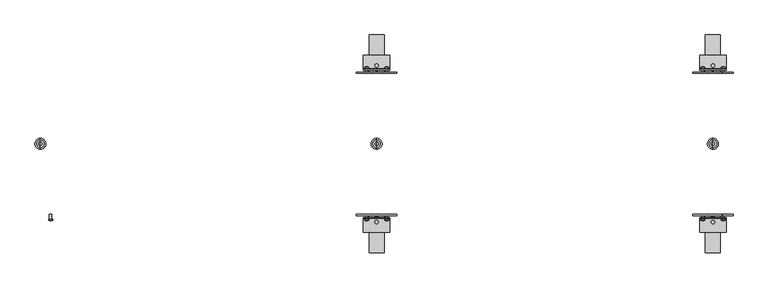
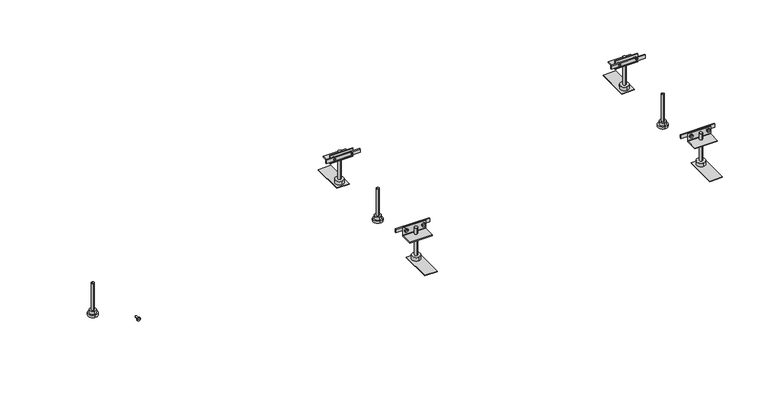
"""IFC4 building model written with IfcOpenShell, lengths in millimetres: proxy geometry."""

from ifc_helpers import new_model, si_unit, point, frame, frame_2d, origin, place, context, project, spatial, polyline, circle_curve, ellipse_curve, trimmed, segment, composite_curve, outline, extrude, source, transform, mapped, element, save
from ifc_brep_helpers import plane_surface, cylinder_surface, revolved_surface, advanced_brep


def electrical_fixtures_6beec135(model_context):
    return source(origin(), model_context, "Body", "SolidModel", [
        advanced_brep(
        [(1600.0, 13.0, -85.5), (1600.0, -13.0, -85.5), (1600.0, 0.0, -85.5), (1600.0, 13.0, -79.5), (1600.0, -13.0, -79.5), (1600.0, 9.0, -79.5), (1600.0, -9.0, -79.5), (1600.0, 9.0, -70.5), (1600.0, -9.0, -70.5), (1600.0, 3.954744, -70.5), (1600.0, -3.954744, -70.5), (1600.0, 3.954744, 9.5), (1600.0, -3.954744, 9.5), (1600.0, 0.0, 9.5)],
        [
            (0, 1, circle_curve(frame((1600.0, 0.0, -85.5), z_axis=(0.0, 0.0, -1.0), x_axis=(0.0, -1.0, 0.0)), 13.0)),
            (1, 2),
            (2, 0),
            (1, 0, circle_curve(frame((1600.0, 0.0, -85.5), z_axis=(0.0, 0.0, -1.0), x_axis=(0.0, -1.0, 0.0)), 13.0)),
            (3, 4, circle_curve(frame((1600.0, 0.0, -79.5), z_axis=(0.0, 0.0, -1.0), x_axis=(0.0, -1.0, 0.0)), 13.0)),
            (4, 1),
            (0, 3),
            (4, 3, circle_curve(frame((1600.0, 0.0, -79.5), z_axis=(0.0, 0.0, -1.0), x_axis=(0.0, -1.0, 0.0)), 13.0)),
            (5, 6, circle_curve(frame((1600.0, 0.0, -79.5), z_axis=(0.0, 0.0, -1.0), x_axis=(0.0, -1.0, 0.0)), 9.0)),
            (6, 4),
            (3, 5),
            (6, 5, circle_curve(frame((1600.0, 0.0, -79.5), z_axis=(0.0, 0.0, -1.0), x_axis=(0.0, -1.0, 0.0)), 9.0)),
            (7, 8, circle_curve(frame((1600.0, 0.0, -70.5), z_axis=(0.0, 0.0, -1.0), x_axis=(0.0, -1.0, 0.0)), 9.0)),
            (8, 6),
            (5, 7),
            (8, 7, circle_curve(frame((1600.0, 0.0, -70.5), z_axis=(0.0, 0.0, -1.0), x_axis=(0.0, -1.0, 0.0)), 9.0)),
            (9, 10, circle_curve(frame((1600.0, 0.0, -70.5), z_axis=(0.0, 0.0, -1.0), x_axis=(0.0, -1.0, 0.0)), 3.954744)),
            (10, 8),
            (7, 9),
            (10, 9, circle_curve(frame((1600.0, 0.0, -70.5), z_axis=(0.0, 0.0, -1.0), x_axis=(0.0, -1.0, 0.0)), 3.954744)),
            (11, 12, circle_curve(frame((1600.0, 0.0, 9.5), z_axis=(0.0, 0.0, -1.0), x_axis=(0.0, -1.0, 0.0)), 3.954744)),
            (12, 10),
            (9, 11),
            (12, 11, circle_curve(frame((1600.0, 0.0, 9.5), z_axis=(0.0, 0.0, -1.0), x_axis=(0.0, -1.0, 0.0)), 3.954744)),
            (13, 12),
            (11, 13),
        ],
        [
            plane_surface(frame((1600.0, 0.0, -85.5), z_axis=(0.0, 0.0, -1.0), x_axis=(0.0, -1.0, 0.0))),
            cylinder_surface(frame((1600.0, 0.0, 7.0), z_axis=(0.0, 0.0, 1.0), x_axis=(0.0, -1.0, 0.0)), 13.0),
            plane_surface(frame((1600.0, 0.0, -79.5), z_axis=(0.0, 0.0, 1.0), x_axis=(0.0, -1.0, 0.0))),
            cylinder_surface(frame((1600.0, 0.0, 7.0), z_axis=(0.0, 0.0, 1.0), x_axis=(0.0, -1.0, 0.0)), 9.0),
            plane_surface(frame((1600.0, 0.0, -70.5), z_axis=(0.0, 0.0, 1.0), x_axis=(0.0, -1.0, 0.0))),
            cylinder_surface(frame((1600.0, 0.0, 7.0), z_axis=(0.0, 0.0, 1.0), x_axis=(0.0, -1.0, 0.0)), 3.954744),
            plane_surface(frame((1600.0, 0.0, 9.5), z_axis=(0.0, 0.0, 1.0), x_axis=(0.0, -1.0, 0.0))),
        ],
        [
            (0, [[1, 2, 3]]),
            (0, [[4, -3, -2]]),
            (1, [[5, 6, -1, 7]]),
            (1, [[8, -7, -4, -6]]),
            (2, [[9, 10, -5, 11]]),
            (2, [[12, -11, -8, -10]]),
            (3, [[13, 14, -9, 15]]),
            (3, [[16, -15, -12, -14]]),
            (4, [[17, 18, -13, 19]]),
            (4, [[20, -19, -16, -18]]),
            (5, [[21, 22, -17, 23]]),
            (5, [[24, -23, -20, -22]]),
            (6, [[25, -21, 26]]),
            (6, [[-26, -24, -25]]),
        ],
    ),
        advanced_brep(
        [(1629.0575247, -181.6418922, 2.5), (1619.4769168, -181.6418922, 2.5), (1619.4769168, -179.7, 2.5), (1629.0575247, -179.7, 2.5), (1621.7042517, -179.7, 2.5), (1626.8301898, -179.7, 2.5), (1621.7042517, -167.7, 2.5), (1626.8301898, -167.7, 2.5), (1624.2672208, -167.7, 2.5), (1624.2672208, -183.3479209, 2.5)],
        [
            (0, 1, circle_curve(frame((1624.2672208, -181.6418922, 2.5), z_axis=(0.0, 1.0, 0.0), x_axis=(-1.0, 0.0, 0.0)), 4.790304)),
            (1, 2),
            (2, 3, circle_curve(frame((1624.2672208, -179.7, 2.5), z_axis=(0.0, -1.0, 0.0), x_axis=(-1.0, 0.0, 0.0)), 4.790304)),
            (3, 0),
            (1, 0, circle_curve(frame((1624.2672208, -181.6418922, 2.5), z_axis=(0.0, 1.0, 0.0), x_axis=(-1.0, 0.0, 0.0)), 4.790304)),
            (3, 2, circle_curve(frame((1624.2672208, -179.7, 2.5), z_axis=(0.0, -1.0, 0.0), x_axis=(-1.0, 0.0, 0.0)), 4.790304)),
            (2, 4),
            (4, 5, circle_curve(frame((1624.2672208, -179.7, 2.5), z_axis=(0.0, -1.0, 0.0), x_axis=(-1.0, 0.0, 0.0)), 2.562969)),
            (5, 3),
            (5, 4, circle_curve(frame((1624.2672208, -179.7, 2.5), z_axis=(0.0, -1.0, 0.0), x_axis=(-1.0, 0.0, 0.0)), 2.562969)),
            (4, 6),
            (6, 7, circle_curve(frame((1624.2672208, -167.7, 2.5), z_axis=(0.0, -1.0, 0.0), x_axis=(-1.0, 0.0, 0.0)), 2.562969)),
            (7, 5),
            (7, 6, circle_curve(frame((1624.2672208, -167.7, 2.5), z_axis=(0.0, -1.0, 0.0), x_axis=(-1.0, 0.0, 0.0)), 2.562969)),
            (6, 8),
            (8, 7),
            (9, 1, circle_curve(frame((1624.2353142, -175.8592246, 2.5), z_axis=(0.0, 0.0, -1.0), x_axis=(-1.0, 0.0, 0.0)), 7.4887643)),
            (0, 9, circle_curve(frame((1624.2991274, -175.8592246, 2.5), z_axis=(0.0, 0.0, -1.0), x_axis=(1.0, 0.0, 0.0)), 7.4887643)),
        ],
        [
            cylinder_surface(frame((1624.2672208, -179.2950786, 2.5), z_axis=(0.0, -1.0, 0.0), x_axis=(-1.0, 0.0, 0.0)), 4.790304),
            plane_surface(frame((1624.2672208, -179.7, 2.5), z_axis=(0.0, 1.0, 0.0), x_axis=(-1.0, 0.0, 0.0))),
            cylinder_surface(frame((1624.2672208, -179.2950786, 2.5), z_axis=(0.0, -1.0, 0.0), x_axis=(-1.0, 0.0, 0.0)), 2.562969),
            plane_surface(frame((1624.2672208, -167.7, 2.5), z_axis=(0.0, 1.0, 0.0), x_axis=(-1.0, 0.0, 0.0))),
            revolved_surface(trimmed(ellipse_curve(frame((1624.2353142, -175.8592246, 2.5), z_axis=(0.0, 0.0, 1.0), x_axis=(-1.0, 0.0, 0.0)), 7.4887643, 7.4887643), [point((1619.4769168, -181.6418922, 2.5))], [point((1624.2672208, -183.3479209, 2.5))], True, "CARTESIAN"), (1624.2672208, -179.2950786, 2.5), (0.0, -1.0, 0.0)),
        ],
        [
            (0, [[1, 2, 3, 4]]),
            (0, [[5, -4, 6, -2]]),
            (1, [[-3, 7, 8, 9]]),
            (1, [[-6, -9, 10, -7]]),
            (2, [[-8, 11, 12, 13]]),
            (2, [[-10, -13, 14, -11]]),
            (3, [[-12, 15, 16]]),
            (3, [[-14, -16, -15]]),
            (4, [[17, -1, 18]]),
            (4, [[-18, -5, -17]]),
        ],
    ),
        advanced_brep(
        [(1580.790304, -181.6418922, 2.5), (1571.209696, -181.6418922, 2.5), (1571.209696, -179.7, 2.5), (1580.790304, -179.7, 2.5), (1573.437031, -179.7, 2.5), (1578.562969, -179.7, 2.5), (1573.437031, -167.7, 2.5), (1578.562969, -167.7, 2.5), (1576.0, -167.7, 2.5), (1576.0, -183.3479209, 2.5)],
        [
            (0, 1, circle_curve(frame((1576.0, -181.6418922, 2.5), z_axis=(0.0, 1.0, 0.0), x_axis=(-1.0, 0.0, 0.0)), 4.790304)),
            (1, 2),
            (2, 3, circle_curve(frame((1576.0, -179.7, 2.5), z_axis=(0.0, -1.0, 0.0), x_axis=(-1.0, 0.0, 0.0)), 4.790304)),
            (3, 0),
            (1, 0, circle_curve(frame((1576.0, -181.6418922, 2.5), z_axis=(0.0, 1.0, 0.0), x_axis=(-1.0, 0.0, 0.0)), 4.790304)),
            (3, 2, circle_curve(frame((1576.0, -179.7, 2.5), z_axis=(0.0, -1.0, 0.0), x_axis=(-1.0, 0.0, 0.0)), 4.790304)),
            (2, 4),
            (4, 5, circle_curve(frame((1576.0, -179.7, 2.5), z_axis=(0.0, -1.0, 0.0), x_axis=(-1.0, 0.0, 0.0)), 2.562969)),
            (5, 3),
            (5, 4, circle_curve(frame((1576.0, -179.7, 2.5), z_axis=(0.0, -1.0, 0.0), x_axis=(-1.0, 0.0, 0.0)), 2.562969)),
            (4, 6),
            (6, 7, circle_curve(frame((1576.0, -167.7, 2.5), z_axis=(0.0, -1.0, 0.0), x_axis=(-1.0, 0.0, 0.0)), 2.562969)),
            (7, 5),
            (7, 6, circle_curve(frame((1576.0, -167.7, 2.5), z_axis=(0.0, -1.0, 0.0), x_axis=(-1.0, 0.0, 0.0)), 2.562969)),
            (6, 8),
            (8, 7),
            (9, 1, circle_curve(frame((1575.9680934, -175.8592246, 2.5), z_axis=(0.0, 0.0, -1.0), x_axis=(-1.0, 0.0, 0.0)), 7.4887643)),
            (0, 9, circle_curve(frame((1576.0319066, -175.8592246, 2.5), z_axis=(0.0, 0.0, -1.0), x_axis=(1.0, 0.0, 0.0)), 7.4887643)),
        ],
        [
            cylinder_surface(frame((1576.0, -179.2950786, 2.5), z_axis=(0.0, -1.0, 0.0), x_axis=(-1.0, 0.0, 0.0)), 4.790304),
            plane_surface(frame((1576.0, -179.7, 2.5), z_axis=(0.0, 1.0, 0.0), x_axis=(-1.0, 0.0, 0.0))),
            cylinder_surface(frame((1576.0, -179.2950786, 2.5), z_axis=(0.0, -1.0, 0.0), x_axis=(-1.0, 0.0, 0.0)), 2.562969),
            plane_surface(frame((1576.0, -167.7, 2.5), z_axis=(0.0, 1.0, 0.0), x_axis=(-1.0, 0.0, 0.0))),
            revolved_surface(trimmed(ellipse_curve(frame((1575.9680934, -175.8592246, 2.5), z_axis=(0.0, 0.0, 1.0), x_axis=(-1.0, 0.0, 0.0)), 7.4887643, 7.4887643), [point((1571.209696, -181.6418922, 2.5))], [point((1576.0, -183.3479209, 2.5))], True, "CARTESIAN"), (1576.0, -179.2950786, 2.5), (0.0, -1.0, 0.0)),
        ],
        [
            (0, [[1, 2, 3, 4]]),
            (0, [[5, -4, 6, -2]]),
            (1, [[-3, 7, 8, 9]]),
            (1, [[-6, -9, 10, -7]]),
            (2, [[-8, 11, 12, 13]]),
            (2, [[-10, -13, 14, -11]]),
            (3, [[-12, 15, 16]]),
            (3, [[-14, -16, -15]]),
            (4, [[17, -1, 18]]),
            (4, [[-18, -5, -17]]),
        ],
    ),
        advanced_brep(
        [(1629.0575247, 179.7, 2.5), (1619.4769168, 179.7, 2.5), (1619.4769168, 181.6418922, 2.5), (1629.0575247, 181.6418922, 2.5), (1626.8301898, 179.7, 2.5), (1621.7042517, 179.7, 2.5), (1626.8301898, 167.7, 2.5), (1621.7042517, 167.7, 2.5), (1624.2672208, 167.7, 2.5), (1624.2672208, 183.3479209, 2.5)],
        [
            (0, 1, circle_curve(frame((1624.2672208, 179.7, 2.5), z_axis=(0.0, 1.0, 0.0), x_axis=(-1.0, 0.0, 0.0)), 4.790304)),
            (1, 2),
            (2, 3, circle_curve(frame((1624.2672208, 181.6418922, 2.5), z_axis=(0.0, -1.0, 0.0), x_axis=(-1.0, 0.0, 0.0)), 4.790304)),
            (3, 0),
            (1, 0, circle_curve(frame((1624.2672208, 179.7, 2.5), z_axis=(0.0, 1.0, 0.0), x_axis=(-1.0, 0.0, 0.0)), 4.790304)),
            (3, 2, circle_curve(frame((1624.2672208, 181.6418922, 2.5), z_axis=(0.0, -1.0, 0.0), x_axis=(-1.0, 0.0, 0.0)), 4.790304)),
            (4, 5, circle_curve(frame((1624.2672208, 179.7, 2.5), z_axis=(0.0, 1.0, 0.0), x_axis=(-1.0, 0.0, 0.0)), 2.562969)),
            (5, 1),
            (0, 4),
            (5, 4, circle_curve(frame((1624.2672208, 179.7, 2.5), z_axis=(0.0, 1.0, 0.0), x_axis=(-1.0, 0.0, 0.0)), 2.562969)),
            (6, 7, circle_curve(frame((1624.2672208, 167.7, 2.5), z_axis=(0.0, 1.0, 0.0), x_axis=(-1.0, 0.0, 0.0)), 2.562969)),
            (7, 5),
            (4, 6),
            (7, 6, circle_curve(frame((1624.2672208, 167.7, 2.5), z_axis=(0.0, 1.0, 0.0), x_axis=(-1.0, 0.0, 0.0)), 2.562969)),
            (8, 7),
            (6, 8),
            (2, 9, circle_curve(frame((1624.2353142, 175.8592246, 2.5), z_axis=(0.0, 0.0, -1.0), x_axis=(-1.0, 0.0, 0.0)), 7.4887643)),
            (9, 3, circle_curve(frame((1624.2991274, 175.8592246, 2.5), z_axis=(0.0, 0.0, -1.0), x_axis=(1.0, 0.0, 0.0)), 7.4887643)),
        ],
        [
            cylinder_surface(frame((1624.2672208, 179.2950786, 2.5), z_axis=(0.0, -1.0, 0.0), x_axis=(-1.0, 0.0, 0.0)), 4.790304),
            plane_surface(frame((1624.2672208, 179.7, 2.5), z_axis=(0.0, -1.0, 0.0), x_axis=(-1.0, 0.0, 0.0))),
            cylinder_surface(frame((1624.2672208, 179.2950786, 2.5), z_axis=(0.0, -1.0, 0.0), x_axis=(-1.0, 0.0, 0.0)), 2.562969),
            plane_surface(frame((1624.2672208, 167.7, 2.5), z_axis=(0.0, -1.0, 0.0), x_axis=(-1.0, 0.0, 0.0))),
            revolved_surface(trimmed(ellipse_curve(frame((1624.2353142, 175.8592246, 2.5), z_axis=(0.0, 0.0, 1.0), x_axis=(-1.0, 0.0, 0.0)), 7.4887643, 7.4887643), [point((1624.2672208, 183.3479209, 2.5))], [point((1619.4769168, 181.6418922, 2.5))], True, "CARTESIAN"), (1624.2672208, 179.2950786, 2.5), (0.0, -1.0, 0.0)),
        ],
        [
            (0, [[1, 2, 3, 4]]),
            (0, [[5, -4, 6, -2]]),
            (1, [[7, 8, -1, 9]]),
            (1, [[10, -9, -5, -8]]),
            (2, [[11, 12, -7, 13]]),
            (2, [[14, -13, -10, -12]]),
            (3, [[15, -11, 16]]),
            (3, [[-16, -14, -15]]),
            (4, [[-3, 17, 18]]),
            (4, [[-6, -18, -17]]),
        ],
    ),
        advanced_brep(
        [(1580.790304, 179.7, 2.5), (1571.209696, 179.7, 2.5), (1571.209696, 181.6418922, 2.5), (1580.790304, 181.6418922, 2.5), (1578.562969, 179.7, 2.5), (1573.437031, 179.7, 2.5), (1578.562969, 167.7, 2.5), (1573.437031, 167.7, 2.5), (1576.0, 167.7, 2.5), (1576.0, 183.3479209, 2.5)],
        [
            (0, 1, circle_curve(frame((1576.0, 179.7, 2.5), z_axis=(0.0, 1.0, 0.0), x_axis=(-1.0, 0.0, 0.0)), 4.790304)),
            (1, 2),
            (2, 3, circle_curve(frame((1576.0, 181.6418922, 2.5), z_axis=(0.0, -1.0, 0.0), x_axis=(-1.0, 0.0, 0.0)), 4.790304)),
            (3, 0),
            (1, 0, circle_curve(frame((1576.0, 179.7, 2.5), z_axis=(0.0, 1.0, 0.0), x_axis=(-1.0, 0.0, 0.0)), 4.790304)),
            (3, 2, circle_curve(frame((1576.0, 181.6418922, 2.5), z_axis=(0.0, -1.0, 0.0), x_axis=(-1.0, 0.0, 0.0)), 4.790304)),
            (4, 5, circle_curve(frame((1576.0, 179.7, 2.5), z_axis=(0.0, 1.0, 0.0), x_axis=(-1.0, 0.0, 0.0)), 2.562969)),
            (5, 1),
            (0, 4),
            (5, 4, circle_curve(frame((1576.0, 179.7, 2.5), z_axis=(0.0, 1.0, 0.0), x_axis=(-1.0, 0.0, 0.0)), 2.562969)),
            (6, 7, circle_curve(frame((1576.0, 167.7, 2.5), z_axis=(0.0, 1.0, 0.0), x_axis=(-1.0, 0.0, 0.0)), 2.562969)),
            (7, 5),
            (4, 6),
            (7, 6, circle_curve(frame((1576.0, 167.7, 2.5), z_axis=(0.0, 1.0, 0.0), x_axis=(-1.0, 0.0, 0.0)), 2.562969)),
            (8, 7),
            (6, 8),
            (2, 9, circle_curve(frame((1575.9680934, 175.8592246, 2.5), z_axis=(0.0, 0.0, -1.0), x_axis=(-1.0, 0.0, 0.0)), 7.4887643)),
            (9, 3, circle_curve(frame((1576.0319066, 175.8592246, 2.5), z_axis=(0.0, 0.0, -1.0), x_axis=(1.0, 0.0, 0.0)), 7.4887643)),
        ],
        [
            cylinder_surface(frame((1576.0, 179.2950786, 2.5), z_axis=(0.0, -1.0, 0.0), x_axis=(-1.0, 0.0, 0.0)), 4.790304),
            plane_surface(frame((1576.0, 179.7, 2.5), z_axis=(0.0, -1.0, 0.0), x_axis=(-1.0, 0.0, 0.0))),
            cylinder_surface(frame((1576.0, 179.2950786, 2.5), z_axis=(0.0, -1.0, 0.0), x_axis=(-1.0, 0.0, 0.0)), 2.562969),
            plane_surface(frame((1576.0, 167.7, 2.5), z_axis=(0.0, -1.0, 0.0), x_axis=(-1.0, 0.0, 0.0))),
            revolved_surface(trimmed(ellipse_curve(frame((1575.9680934, 175.8592246, 2.5), z_axis=(0.0, 0.0, 1.0), x_axis=(-1.0, 0.0, 0.0)), 7.4887643, 7.4887643), [point((1576.0, 183.3479209, 2.5))], [point((1571.209696, 181.6418922, 2.5))], True, "CARTESIAN"), (1576.0, 179.2950786, 2.5), (0.0, -1.0, 0.0)),
        ],
        [
            (0, [[1, 2, 3, 4]]),
            (0, [[5, -4, 6, -2]]),
            (1, [[7, 8, -1, 9]]),
            (1, [[10, -9, -5, -8]]),
            (2, [[11, 12, -7, 13]]),
            (2, [[14, -13, -10, -12]]),
            (3, [[15, -11, 16]]),
            (3, [[-16, -14, -15]]),
            (4, [[-3, 17, 18]]),
            (4, [[-6, -18, -17]]),
        ],
    ),
        extrude(outline(polyline([(1552.0, 167.7), (1552.0, 170.7), (1648.0, 170.7), (1648.0, 167.7), (1552.0, 167.7)])), frame((0.0, 0.0, -2.5), z_axis=(0.0, 0.0, 1.0), x_axis=(1.0, 0.0, 0.0)), (0.0, 0.0, 1.0), 10.0),
        extrude(outline(polyline([(1552.0, -170.7), (1552.0, -167.7), (1648.0, -167.7), (1648.0, -170.7), (1552.0, -170.7)])), frame((0.0, 0.0, -2.5), z_axis=(0.0, 0.0, 1.0), x_axis=(1.0, 0.0, 0.0)), (0.0, 0.0, 1.0), 10.0),
        extrude(outline(composite_curve([segment(polyline([(175.6, 10.9), (177.6, 10.9), (177.6, -11.1088822)]), True, "CONTINUOUS"), segment(trimmed(circle_curve(frame_2d((178.5911178, -11.1088822)), 0.9911178), [point((177.6, -11.1088822))], [point((178.5911178, -12.1))], True, "CARTESIAN"), True, "CONTINUOUS"), segment(polyline([(178.5911178, -12.1), (210.6, -12.1), (210.6, -14.1), (178.6002521, -14.1)]), True, "CONTINUOUS"), segment(trimmed(circle_curve(frame_2d((178.6002521, -11.0997479)), 3.0002521), [point((178.6002521, -14.1))], [point((175.6, -11.0997479))], False, "CARTESIAN"), True, "CONTINUOUS"), segment(polyline([(175.6, -11.0997479), (175.6, 10.9)]), True, "CONTINUOUS")], self_intersect=False)), frame((1568.3, 0.0, 0.0), z_axis=(1.0, 0.0, 0.0), x_axis=(0.0, 1.0, 0.0)), (0.0, 0.0, 1.0), 63.4),
        extrude(outline(composite_curve([segment(polyline([(-175.6, 10.9), (-175.6, -11.0997479)]), True, "CONTINUOUS"), segment(trimmed(circle_curve(frame_2d((-178.6002521, -11.0997479)), 3.0002521), [point((-175.6, -11.0997479))], [point((-178.6002521, -14.1))], False, "CARTESIAN"), True, "CONTINUOUS"), segment(polyline([(-178.6002521, -14.1), (-210.6, -14.1), (-210.6, -12.1), (-178.5911178, -12.1)]), True, "CONTINUOUS"), segment(trimmed(circle_curve(frame_2d((-178.5911178, -11.1088822)), 0.9911178), [point((-178.5911178, -12.1))], [point((-177.6, -11.1088822))], True, "CARTESIAN"), True, "CONTINUOUS"), segment(polyline([(-177.6, -11.1088822), (-177.6, 10.9), (-175.6, 10.9)]), True, "CONTINUOUS")], self_intersect=False)), frame((1568.3, 0.0, 0.0), z_axis=(1.0, 0.0, 0.0), x_axis=(0.0, 1.0, 0.0)), (0.0, 0.0, 1.0), 63.4),
        extrude(outline(composite_curve([segment(trimmed(circle_curve(frame_2d((1600.0, 186.1712378)), 3.9923162), [point((1600.0, 190.163554))], [point((1600.0, 182.1789216))], False, "CARTESIAN"), True, "CONTINUOUS"), segment(trimmed(circle_curve(frame_2d((1600.0, 186.1712378)), 3.9923162), [point((1600.0, 182.1789216))], [point((1600.0, 190.163554))], False, "CARTESIAN"), True, "CONTINUOUS")], self_intersect=False)), frame((0.0, 0.0, -74.8), z_axis=(0.0, 0.0, 1.0), x_axis=(1.0, 0.0, 0.0)), (0.0, 0.0, 1.0), 81.8),
        extrude(outline(composite_curve([segment(trimmed(circle_curve(frame_2d((1600.0, -186.0787011)), 3.991847), [point((1600.0, -182.0868541))], [point((1600.0, -190.0705482))], False, "CARTESIAN"), True, "CONTINUOUS"), segment(trimmed(circle_curve(frame_2d((1600.0, -186.0787011)), 3.991847), [point((1600.0, -190.0705482))], [point((1600.0, -182.0868541))], False, "CARTESIAN"), True, "CONTINUOUS")], self_intersect=False)), frame((0.0, 0.0, -74.8), z_axis=(0.0, 0.0, 1.0), x_axis=(1.0, 0.0, 0.0)), (0.0, 0.0, 1.0), 81.8),
        extrude(outline(composite_curve([segment(trimmed(circle_curve(frame_2d((1600.0, 186.1652527)), 12.0), [point((1600.0, 198.1652527))], [point((1600.0, 174.1652527))], False, "CARTESIAN"), True, "CONTINUOUS"), segment(trimmed(circle_curve(frame_2d((1600.0, 186.1652527)), 12.0), [point((1600.0, 174.1652527))], [point((1600.0, 198.1652527))], False, "CARTESIAN"), True, "CONTINUOUS")], self_intersect=False)), frame((0.0, 0.0, -85.5), z_axis=(0.0, 0.0, 1.0), x_axis=(1.0, 0.0, 0.0)), (0.0, 0.0, 1.0), 10.7),
        extrude(outline(composite_curve([segment(trimmed(circle_curve(frame_2d((1600.0, -186.112037)), 12.0), [point((1600.0, -174.112037))], [point((1600.0, -198.112037))], False, "CARTESIAN"), True, "CONTINUOUS"), segment(trimmed(circle_curve(frame_2d((1600.0, -186.112037)), 12.0), [point((1600.0, -198.112037))], [point((1600.0, -174.112037))], False, "CARTESIAN"), True, "CONTINUOUS")], self_intersect=False)), frame((0.0, 0.0, -85.5), z_axis=(0.0, 0.0, 1.0), x_axis=(1.0, 0.0, 0.0)), (0.0, 0.0, 1.0), 10.7),
        extrude(outline(polyline([(1618.0, 169.1), (1582.0, 169.1), (1582.0, 259.1), (1618.0, 259.1), (1618.0, 169.1)])), frame((0.0, 0.0, -87.0), z_axis=(0.0, 0.0, 1.0), x_axis=(1.0, 0.0, 0.0)), (0.0, 0.0, 1.0), 1.5),
        extrude(outline(polyline([(1618.0, -259.1), (1582.0, -259.1), (1582.0, -169.1), (1618.0, -169.1), (1618.0, -259.1)])), frame((0.0, 0.0, -87.0), z_axis=(0.0, 0.0, 1.0), x_axis=(1.0, 0.0, 0.0)), (0.0, 0.0, 1.0), 1.5),
        advanced_brep(
        [(800.0, 13.0, -85.5), (800.0, -13.0, -85.5), (800.0, 0.0, -85.5), (800.0, 13.0, -79.5), (800.0, -13.0, -79.5), (800.0, 9.0, -79.5), (800.0, -9.0, -79.5), (800.0, 9.0, -70.5), (800.0, -9.0, -70.5), (800.0, 3.954744, -70.5), (800.0, -3.954744, -70.5), (800.0, 3.954744, 9.5), (800.0, -3.954744, 9.5), (800.0, 0.0, 9.5)],
        [
            (0, 1, circle_curve(frame((800.0, 0.0, -85.5), z_axis=(0.0, 0.0, -1.0), x_axis=(0.0, -1.0, 0.0)), 13.0)),
            (1, 2),
            (2, 0),
            (1, 0, circle_curve(frame((800.0, 0.0, -85.5), z_axis=(0.0, 0.0, -1.0), x_axis=(0.0, -1.0, 0.0)), 13.0)),
            (3, 4, circle_curve(frame((800.0, 0.0, -79.5), z_axis=(0.0, 0.0, -1.0), x_axis=(0.0, -1.0, 0.0)), 13.0)),
            (4, 1),
            (0, 3),
            (4, 3, circle_curve(frame((800.0, 0.0, -79.5), z_axis=(0.0, 0.0, -1.0), x_axis=(0.0, -1.0, 0.0)), 13.0)),
            (5, 6, circle_curve(frame((800.0, 0.0, -79.5), z_axis=(0.0, 0.0, -1.0), x_axis=(0.0, -1.0, 0.0)), 9.0)),
            (6, 4),
            (3, 5),
            (6, 5, circle_curve(frame((800.0, 0.0, -79.5), z_axis=(0.0, 0.0, -1.0), x_axis=(0.0, -1.0, 0.0)), 9.0)),
            (7, 8, circle_curve(frame((800.0, 0.0, -70.5), z_axis=(0.0, 0.0, -1.0), x_axis=(0.0, -1.0, 0.0)), 9.0)),
            (8, 6),
            (5, 7),
            (8, 7, circle_curve(frame((800.0, 0.0, -70.5), z_axis=(0.0, 0.0, -1.0), x_axis=(0.0, -1.0, 0.0)), 9.0)),
            (9, 10, circle_curve(frame((800.0, 0.0, -70.5), z_axis=(0.0, 0.0, -1.0), x_axis=(0.0, -1.0, 0.0)), 3.954744)),
            (10, 8),
            (7, 9),
            (10, 9, circle_curve(frame((800.0, 0.0, -70.5), z_axis=(0.0, 0.0, -1.0), x_axis=(0.0, -1.0, 0.0)), 3.954744)),
            (11, 12, circle_curve(frame((800.0, 0.0, 9.5), z_axis=(0.0, 0.0, -1.0), x_axis=(0.0, -1.0, 0.0)), 3.954744)),
            (12, 10),
            (9, 11),
            (12, 11, circle_curve(frame((800.0, 0.0, 9.5), z_axis=(0.0, 0.0, -1.0), x_axis=(0.0, -1.0, 0.0)), 3.954744)),
            (13, 12),
            (11, 13),
        ],
        [
            plane_surface(frame((800.0, 0.0, -85.5), z_axis=(0.0, 0.0, -1.0), x_axis=(0.0, -1.0, 0.0))),
            cylinder_surface(frame((800.0, 0.0, 7.0), z_axis=(0.0, 0.0, 1.0), x_axis=(0.0, -1.0, 0.0)), 13.0),
            plane_surface(frame((800.0, 0.0, -79.5), z_axis=(0.0, 0.0, 1.0), x_axis=(0.0, -1.0, 0.0))),
            cylinder_surface(frame((800.0, 0.0, 7.0), z_axis=(0.0, 0.0, 1.0), x_axis=(0.0, -1.0, 0.0)), 9.0),
            plane_surface(frame((800.0, 0.0, -70.5), z_axis=(0.0, 0.0, 1.0), x_axis=(0.0, -1.0, 0.0))),
            cylinder_surface(frame((800.0, 0.0, 7.0), z_axis=(0.0, 0.0, 1.0), x_axis=(0.0, -1.0, 0.0)), 3.954744),
            plane_surface(frame((800.0, 0.0, 9.5), z_axis=(0.0, 0.0, 1.0), x_axis=(0.0, -1.0, 0.0))),
        ],
        [
            (0, [[1, 2, 3]]),
            (0, [[4, -3, -2]]),
            (1, [[5, 6, -1, 7]]),
            (1, [[8, -7, -4, -6]]),
            (2, [[9, 10, -5, 11]]),
            (2, [[12, -11, -8, -10]]),
            (3, [[13, 14, -9, 15]]),
            (3, [[16, -15, -12, -14]]),
            (4, [[17, 18, -13, 19]]),
            (4, [[20, -19, -16, -18]]),
            (5, [[21, 22, -17, 23]]),
            (5, [[24, -23, -20, -22]]),
            (6, [[25, -21, 26]]),
            (6, [[-26, -24, -25]]),
        ],
    ),
        advanced_brep(
        [(829.0575247, -181.6418922, 2.5), (819.4769168, -181.6418922, 2.5), (819.4769168, -179.7, 2.5), (829.0575247, -179.7, 2.5), (821.7042517, -179.7, 2.5), (826.8301898, -179.7, 2.5), (821.7042517, -167.7, 2.5), (826.8301898, -167.7, 2.5), (824.2672208, -167.7, 2.5), (824.2672208, -183.3479209, 2.5)],
        [
            (0, 1, circle_curve(frame((824.2672208, -181.6418922, 2.5), z_axis=(0.0, 1.0, 0.0), x_axis=(-1.0, 0.0, 0.0)), 4.790304)),
            (1, 2),
            (2, 3, circle_curve(frame((824.2672208, -179.7, 2.5), z_axis=(0.0, -1.0, 0.0), x_axis=(-1.0, 0.0, 0.0)), 4.790304)),
            (3, 0),
            (1, 0, circle_curve(frame((824.2672208, -181.6418922, 2.5), z_axis=(0.0, 1.0, 0.0), x_axis=(-1.0, 0.0, 0.0)), 4.790304)),
            (3, 2, circle_curve(frame((824.2672208, -179.7, 2.5), z_axis=(0.0, -1.0, 0.0), x_axis=(-1.0, 0.0, 0.0)), 4.790304)),
            (2, 4),
            (4, 5, circle_curve(frame((824.2672208, -179.7, 2.5), z_axis=(0.0, -1.0, 0.0), x_axis=(-1.0, 0.0, 0.0)), 2.562969)),
            (5, 3),
            (5, 4, circle_curve(frame((824.2672208, -179.7, 2.5), z_axis=(0.0, -1.0, 0.0), x_axis=(-1.0, 0.0, 0.0)), 2.562969)),
            (4, 6),
            (6, 7, circle_curve(frame((824.2672208, -167.7, 2.5), z_axis=(0.0, -1.0, 0.0), x_axis=(-1.0, 0.0, 0.0)), 2.562969)),
            (7, 5),
            (7, 6, circle_curve(frame((824.2672208, -167.7, 2.5), z_axis=(0.0, -1.0, 0.0), x_axis=(-1.0, 0.0, 0.0)), 2.562969)),
            (6, 8),
            (8, 7),
            (9, 1, circle_curve(frame((824.2353142, -175.8592246, 2.5), z_axis=(0.0, 0.0, -1.0), x_axis=(-1.0, 0.0, 0.0)), 7.4887643)),
            (0, 9, circle_curve(frame((824.2991274, -175.8592246, 2.5), z_axis=(0.0, 0.0, -1.0), x_axis=(1.0, 0.0, 0.0)), 7.4887643)),
        ],
        [
            cylinder_surface(frame((824.2672208, -179.2950786, 2.5), z_axis=(0.0, -1.0, 0.0), x_axis=(-1.0, 0.0, 0.0)), 4.790304),
            plane_surface(frame((824.2672208, -179.7, 2.5), z_axis=(0.0, 1.0, 0.0), x_axis=(-1.0, 0.0, 0.0))),
            cylinder_surface(frame((824.2672208, -179.2950786, 2.5), z_axis=(0.0, -1.0, 0.0), x_axis=(-1.0, 0.0, 0.0)), 2.562969),
            plane_surface(frame((824.2672208, -167.7, 2.5), z_axis=(0.0, 1.0, 0.0), x_axis=(-1.0, 0.0, 0.0))),
            revolved_surface(trimmed(ellipse_curve(frame((824.2353142, -175.8592246, 2.5), z_axis=(0.0, 0.0, 1.0), x_axis=(-1.0, 0.0, 0.0)), 7.4887643, 7.4887643), [point((819.4769168, -181.6418922, 2.5))], [point((824.2672208, -183.3479209, 2.5))], True, "CARTESIAN"), (824.2672208, -179.2950786, 2.5), (0.0, -1.0, 0.0)),
        ],
        [
            (0, [[1, 2, 3, 4]]),
            (0, [[5, -4, 6, -2]]),
            (1, [[-3, 7, 8, 9]]),
            (1, [[-6, -9, 10, -7]]),
            (2, [[-8, 11, 12, 13]]),
            (2, [[-10, -13, 14, -11]]),
            (3, [[-12, 15, 16]]),
            (3, [[-14, -16, -15]]),
            (4, [[17, -1, 18]]),
            (4, [[-18, -5, -17]]),
        ],
    ),
        advanced_brep(
        [(780.790304, -181.6418922, 2.5), (771.209696, -181.6418922, 2.5), (771.209696, -179.7, 2.5), (780.790304, -179.7, 2.5), (773.437031, -179.7, 2.5), (778.562969, -179.7, 2.5), (773.437031, -167.7, 2.5), (778.562969, -167.7, 2.5), (776.0, -167.7, 2.5), (776.0, -183.3479209, 2.5)],
        [
            (0, 1, circle_curve(frame((776.0, -181.6418922, 2.5), z_axis=(0.0, 1.0, 0.0), x_axis=(-1.0, 0.0, 0.0)), 4.790304)),
            (1, 2),
            (2, 3, circle_curve(frame((776.0, -179.7, 2.5), z_axis=(0.0, -1.0, 0.0), x_axis=(-1.0, 0.0, 0.0)), 4.790304)),
            (3, 0),
            (1, 0, circle_curve(frame((776.0, -181.6418922, 2.5), z_axis=(0.0, 1.0, 0.0), x_axis=(-1.0, 0.0, 0.0)), 4.790304)),
            (3, 2, circle_curve(frame((776.0, -179.7, 2.5), z_axis=(0.0, -1.0, 0.0), x_axis=(-1.0, 0.0, 0.0)), 4.790304)),
            (2, 4),
            (4, 5, circle_curve(frame((776.0, -179.7, 2.5), z_axis=(0.0, -1.0, 0.0), x_axis=(-1.0, 0.0, 0.0)), 2.562969)),
            (5, 3),
            (5, 4, circle_curve(frame((776.0, -179.7, 2.5), z_axis=(0.0, -1.0, 0.0), x_axis=(-1.0, 0.0, 0.0)), 2.562969)),
            (4, 6),
            (6, 7, circle_curve(frame((776.0, -167.7, 2.5), z_axis=(0.0, -1.0, 0.0), x_axis=(-1.0, 0.0, 0.0)), 2.562969)),
            (7, 5),
            (7, 6, circle_curve(frame((776.0, -167.7, 2.5), z_axis=(0.0, -1.0, 0.0), x_axis=(-1.0, 0.0, 0.0)), 2.562969)),
            (6, 8),
            (8, 7),
            (9, 1, circle_curve(frame((775.9680934, -175.8592246, 2.5), z_axis=(0.0, 0.0, -1.0), x_axis=(-1.0, 0.0, 0.0)), 7.4887643)),
            (0, 9, circle_curve(frame((776.0319066, -175.8592246, 2.5), z_axis=(0.0, 0.0, -1.0), x_axis=(1.0, 0.0, 0.0)), 7.4887643)),
        ],
        [
            cylinder_surface(frame((776.0, -179.2950786, 2.5), z_axis=(0.0, -1.0, 0.0), x_axis=(-1.0, 0.0, 0.0)), 4.790304),
            plane_surface(frame((776.0, -179.7, 2.5), z_axis=(0.0, 1.0, 0.0), x_axis=(-1.0, 0.0, 0.0))),
            cylinder_surface(frame((776.0, -179.2950786, 2.5), z_axis=(0.0, -1.0, 0.0), x_axis=(-1.0, 0.0, 0.0)), 2.562969),
            plane_surface(frame((776.0, -167.7, 2.5), z_axis=(0.0, 1.0, 0.0), x_axis=(-1.0, 0.0, 0.0))),
            revolved_surface(trimmed(ellipse_curve(frame((775.9680934, -175.8592246, 2.5), z_axis=(0.0, 0.0, 1.0), x_axis=(-1.0, 0.0, 0.0)), 7.4887643, 7.4887643), [point((771.209696, -181.6418922, 2.5))], [point((776.0, -183.3479209, 2.5))], True, "CARTESIAN"), (776.0, -179.2950786, 2.5), (0.0, -1.0, 0.0)),
        ],
        [
            (0, [[1, 2, 3, 4]]),
            (0, [[5, -4, 6, -2]]),
            (1, [[-3, 7, 8, 9]]),
            (1, [[-6, -9, 10, -7]]),
            (2, [[-8, 11, 12, 13]]),
            (2, [[-10, -13, 14, -11]]),
            (3, [[-12, 15, 16]]),
            (3, [[-14, -16, -15]]),
            (4, [[17, -1, 18]]),
            (4, [[-18, -5, -17]]),
        ],
    ),
        advanced_brep(
        [(829.0575247, 179.7, 2.5), (819.4769168, 179.7, 2.5), (819.4769168, 181.6418922, 2.5), (829.0575247, 181.6418922, 2.5), (826.8301898, 179.7, 2.5), (821.7042517, 179.7, 2.5), (826.8301898, 167.7, 2.5), (821.7042517, 167.7, 2.5), (824.2672208, 167.7, 2.5), (824.2672208, 183.3479209, 2.5)],
        [
            (0, 1, circle_curve(frame((824.2672208, 179.7, 2.5), z_axis=(0.0, 1.0, 0.0), x_axis=(-1.0, 0.0, 0.0)), 4.790304)),
            (1, 2),
            (2, 3, circle_curve(frame((824.2672208, 181.6418922, 2.5), z_axis=(0.0, -1.0, 0.0), x_axis=(-1.0, 0.0, 0.0)), 4.790304)),
            (3, 0),
            (1, 0, circle_curve(frame((824.2672208, 179.7, 2.5), z_axis=(0.0, 1.0, 0.0), x_axis=(-1.0, 0.0, 0.0)), 4.790304)),
            (3, 2, circle_curve(frame((824.2672208, 181.6418922, 2.5), z_axis=(0.0, -1.0, 0.0), x_axis=(-1.0, 0.0, 0.0)), 4.790304)),
            (4, 5, circle_curve(frame((824.2672208, 179.7, 2.5), z_axis=(0.0, 1.0, 0.0), x_axis=(-1.0, 0.0, 0.0)), 2.562969)),
            (5, 1),
            (0, 4),
            (5, 4, circle_curve(frame((824.2672208, 179.7, 2.5), z_axis=(0.0, 1.0, 0.0), x_axis=(-1.0, 0.0, 0.0)), 2.562969)),
            (6, 7, circle_curve(frame((824.2672208, 167.7, 2.5), z_axis=(0.0, 1.0, 0.0), x_axis=(-1.0, 0.0, 0.0)), 2.562969)),
            (7, 5),
            (4, 6),
            (7, 6, circle_curve(frame((824.2672208, 167.7, 2.5), z_axis=(0.0, 1.0, 0.0), x_axis=(-1.0, 0.0, 0.0)), 2.562969)),
            (8, 7),
            (6, 8),
            (2, 9, circle_curve(frame((824.2353142, 175.8592246, 2.5), z_axis=(0.0, 0.0, -1.0), x_axis=(-1.0, 0.0, 0.0)), 7.4887643)),
            (9, 3, circle_curve(frame((824.2991274, 175.8592246, 2.5), z_axis=(0.0, 0.0, -1.0), x_axis=(1.0, 0.0, 0.0)), 7.4887643)),
        ],
        [
            cylinder_surface(frame((824.2672208, 179.2950786, 2.5), z_axis=(0.0, -1.0, 0.0), x_axis=(-1.0, 0.0, 0.0)), 4.790304),
            plane_surface(frame((824.2672208, 179.7, 2.5), z_axis=(0.0, -1.0, 0.0), x_axis=(-1.0, 0.0, 0.0))),
            cylinder_surface(frame((824.2672208, 179.2950786, 2.5), z_axis=(0.0, -1.0, 0.0), x_axis=(-1.0, 0.0, 0.0)), 2.562969),
            plane_surface(frame((824.2672208, 167.7, 2.5), z_axis=(0.0, -1.0, 0.0), x_axis=(-1.0, 0.0, 0.0))),
            revolved_surface(trimmed(ellipse_curve(frame((824.2353142, 175.8592246, 2.5), z_axis=(0.0, 0.0, 1.0), x_axis=(-1.0, 0.0, 0.0)), 7.4887643, 7.4887643), [point((824.2672208, 183.3479209, 2.5))], [point((819.4769168, 181.6418922, 2.5))], True, "CARTESIAN"), (824.2672208, 179.2950786, 2.5), (0.0, -1.0, 0.0)),
        ],
        [
            (0, [[1, 2, 3, 4]]),
            (0, [[5, -4, 6, -2]]),
            (1, [[7, 8, -1, 9]]),
            (1, [[10, -9, -5, -8]]),
            (2, [[11, 12, -7, 13]]),
            (2, [[14, -13, -10, -12]]),
            (3, [[15, -11, 16]]),
            (3, [[-16, -14, -15]]),
            (4, [[-3, 17, 18]]),
            (4, [[-6, -18, -17]]),
        ],
    ),
        advanced_brep(
        [(780.790304, 179.7, 2.5), (771.209696, 179.7, 2.5), (771.209696, 181.6418922, 2.5), (780.790304, 181.6418922, 2.5), (778.562969, 179.7, 2.5), (773.437031, 179.7, 2.5), (778.562969, 167.7, 2.5), (773.437031, 167.7, 2.5), (776.0, 167.7, 2.5), (776.0, 183.3479209, 2.5)],
        [
            (0, 1, circle_curve(frame((776.0, 179.7, 2.5), z_axis=(0.0, 1.0, 0.0), x_axis=(-1.0, 0.0, 0.0)), 4.790304)),
            (1, 2),
            (2, 3, circle_curve(frame((776.0, 181.6418922, 2.5), z_axis=(0.0, -1.0, 0.0), x_axis=(-1.0, 0.0, 0.0)), 4.790304)),
            (3, 0),
            (1, 0, circle_curve(frame((776.0, 179.7, 2.5), z_axis=(0.0, 1.0, 0.0), x_axis=(-1.0, 0.0, 0.0)), 4.790304)),
            (3, 2, circle_curve(frame((776.0, 181.6418922, 2.5), z_axis=(0.0, -1.0, 0.0), x_axis=(-1.0, 0.0, 0.0)), 4.790304)),
            (4, 5, circle_curve(frame((776.0, 179.7, 2.5), z_axis=(0.0, 1.0, 0.0), x_axis=(-1.0, 0.0, 0.0)), 2.562969)),
            (5, 1),
            (0, 4),
            (5, 4, circle_curve(frame((776.0, 179.7, 2.5), z_axis=(0.0, 1.0, 0.0), x_axis=(-1.0, 0.0, 0.0)), 2.562969)),
            (6, 7, circle_curve(frame((776.0, 167.7, 2.5), z_axis=(0.0, 1.0, 0.0), x_axis=(-1.0, 0.0, 0.0)), 2.562969)),
            (7, 5),
            (4, 6),
            (7, 6, circle_curve(frame((776.0, 167.7, 2.5), z_axis=(0.0, 1.0, 0.0), x_axis=(-1.0, 0.0, 0.0)), 2.562969)),
            (8, 7),
            (6, 8),
            (2, 9, circle_curve(frame((775.9680934, 175.8592246, 2.5), z_axis=(0.0, 0.0, -1.0), x_axis=(-1.0, 0.0, 0.0)), 7.4887643)),
            (9, 3, circle_curve(frame((776.0319066, 175.8592246, 2.5), z_axis=(0.0, 0.0, -1.0), x_axis=(1.0, 0.0, 0.0)), 7.4887643)),
        ],
        [
            cylinder_surface(frame((776.0, 179.2950786, 2.5), z_axis=(0.0, -1.0, 0.0), x_axis=(-1.0, 0.0, 0.0)), 4.790304),
            plane_surface(frame((776.0, 179.7, 2.5), z_axis=(0.0, -1.0, 0.0), x_axis=(-1.0, 0.0, 0.0))),
            cylinder_surface(frame((776.0, 179.2950786, 2.5), z_axis=(0.0, -1.0, 0.0), x_axis=(-1.0, 0.0, 0.0)), 2.562969),
            plane_surface(frame((776.0, 167.7, 2.5), z_axis=(0.0, -1.0, 0.0), x_axis=(-1.0, 0.0, 0.0))),
            revolved_surface(trimmed(ellipse_curve(frame((775.9680934, 175.8592246, 2.5), z_axis=(0.0, 0.0, 1.0), x_axis=(-1.0, 0.0, 0.0)), 7.4887643, 7.4887643), [point((776.0, 183.3479209, 2.5))], [point((771.209696, 181.6418922, 2.5))], True, "CARTESIAN"), (776.0, 179.2950786, 2.5), (0.0, -1.0, 0.0)),
        ],
        [
            (0, [[1, 2, 3, 4]]),
            (0, [[5, -4, 6, -2]]),
            (1, [[7, 8, -1, 9]]),
            (1, [[10, -9, -5, -8]]),
            (2, [[11, 12, -7, 13]]),
            (2, [[14, -13, -10, -12]]),
            (3, [[15, -11, 16]]),
            (3, [[-16, -14, -15]]),
            (4, [[-3, 17, 18]]),
            (4, [[-6, -18, -17]]),
        ],
    ),
        extrude(outline(polyline([(752.0, 167.7), (752.0, 170.7), (848.0, 170.7), (848.0, 167.7), (752.0, 167.7)])), frame((0.0, 0.0, -2.5), z_axis=(0.0, 0.0, 1.0), x_axis=(1.0, 0.0, 0.0)), (0.0, 0.0, 1.0), 10.0),
        extrude(outline(polyline([(752.0, -170.7), (752.0, -167.7), (848.0, -167.7), (848.0, -170.7), (752.0, -170.7)])), frame((0.0, 0.0, -2.5), z_axis=(0.0, 0.0, 1.0), x_axis=(1.0, 0.0, 0.0)), (0.0, 0.0, 1.0), 10.0),
        extrude(outline(composite_curve([segment(polyline([(175.6, 10.9), (177.6, 10.9), (177.6, -11.1088822)]), True, "CONTINUOUS"), segment(trimmed(circle_curve(frame_2d((178.5911178, -11.1088822)), 0.9911178), [point((177.6, -11.1088822))], [point((178.5911178, -12.1))], True, "CARTESIAN"), True, "CONTINUOUS"), segment(polyline([(178.5911178, -12.1), (210.6, -12.1), (210.6, -14.1), (178.6002521, -14.1)]), True, "CONTINUOUS"), segment(trimmed(circle_curve(frame_2d((178.6002521, -11.0997479)), 3.0002521), [point((178.6002521, -14.1))], [point((175.6, -11.0997479))], False, "CARTESIAN"), True, "CONTINUOUS"), segment(polyline([(175.6, -11.0997479), (175.6, 10.9)]), True, "CONTINUOUS")], self_intersect=False)), frame((768.3, 0.0, 0.0), z_axis=(1.0, 0.0, 0.0), x_axis=(0.0, 1.0, 0.0)), (0.0, 0.0, 1.0), 63.4),
        extrude(outline(composite_curve([segment(polyline([(-175.6, 10.9), (-175.6, -11.0997479)]), True, "CONTINUOUS"), segment(trimmed(circle_curve(frame_2d((-178.6002521, -11.0997479)), 3.0002521), [point((-175.6, -11.0997479))], [point((-178.6002521, -14.1))], False, "CARTESIAN"), True, "CONTINUOUS"), segment(polyline([(-178.6002521, -14.1), (-210.6, -14.1), (-210.6, -12.1), (-178.5911178, -12.1)]), True, "CONTINUOUS"), segment(trimmed(circle_curve(frame_2d((-178.5911178, -11.1088822)), 0.9911178), [point((-178.5911178, -12.1))], [point((-177.6, -11.1088822))], True, "CARTESIAN"), True, "CONTINUOUS"), segment(polyline([(-177.6, -11.1088822), (-177.6, 10.9), (-175.6, 10.9)]), True, "CONTINUOUS")], self_intersect=False)), frame((768.3, 0.0, 0.0), z_axis=(1.0, 0.0, 0.0), x_axis=(0.0, 1.0, 0.0)), (0.0, 0.0, 1.0), 63.4),
        extrude(outline(composite_curve([segment(trimmed(circle_curve(frame_2d((800.0, 186.1712378)), 3.9923162), [point((800.0, 190.163554))], [point((800.0, 182.1789216))], False, "CARTESIAN"), True, "CONTINUOUS"), segment(trimmed(circle_curve(frame_2d((800.0, 186.1712378)), 3.9923162), [point((800.0, 182.1789216))], [point((800.0, 190.163554))], False, "CARTESIAN"), True, "CONTINUOUS")], self_intersect=False)), frame((0.0, 0.0, -74.8), z_axis=(0.0, 0.0, 1.0), x_axis=(1.0, 0.0, 0.0)), (0.0, 0.0, 1.0), 81.8),
        extrude(outline(composite_curve([segment(trimmed(circle_curve(frame_2d((800.0, -186.0787011)), 3.991847), [point((800.0, -182.0868541))], [point((800.0, -190.0705482))], False, "CARTESIAN"), True, "CONTINUOUS"), segment(trimmed(circle_curve(frame_2d((800.0, -186.0787011)), 3.991847), [point((800.0, -190.0705482))], [point((800.0, -182.0868541))], False, "CARTESIAN"), True, "CONTINUOUS")], self_intersect=False)), frame((0.0, 0.0, -74.8), z_axis=(0.0, 0.0, 1.0), x_axis=(1.0, 0.0, 0.0)), (0.0, 0.0, 1.0), 81.8),
        extrude(outline(composite_curve([segment(trimmed(circle_curve(frame_2d((800.0, 186.1652527)), 12.0), [point((800.0, 198.1652527))], [point((800.0, 174.1652527))], False, "CARTESIAN"), True, "CONTINUOUS"), segment(trimmed(circle_curve(frame_2d((800.0, 186.1652527)), 12.0), [point((800.0, 174.1652527))], [point((800.0, 198.1652527))], False, "CARTESIAN"), True, "CONTINUOUS")], self_intersect=False)), frame((0.0, 0.0, -85.5), z_axis=(0.0, 0.0, 1.0), x_axis=(1.0, 0.0, 0.0)), (0.0, 0.0, 1.0), 10.7),
        extrude(outline(composite_curve([segment(trimmed(circle_curve(frame_2d((800.0, -186.112037)), 12.0), [point((800.0, -174.112037))], [point((800.0, -198.112037))], False, "CARTESIAN"), True, "CONTINUOUS"), segment(trimmed(circle_curve(frame_2d((800.0, -186.112037)), 12.0), [point((800.0, -198.112037))], [point((800.0, -174.112037))], False, "CARTESIAN"), True, "CONTINUOUS")], self_intersect=False)), frame((0.0, 0.0, -85.5), z_axis=(0.0, 0.0, 1.0), x_axis=(1.0, 0.0, 0.0)), (0.0, 0.0, 1.0), 10.7),
        extrude(outline(polyline([(818.0, 169.1), (782.0, 169.1), (782.0, 259.1), (818.0, 259.1), (818.0, 169.1)])), frame((0.0, 0.0, -87.0), z_axis=(0.0, 0.0, 1.0), x_axis=(1.0, 0.0, 0.0)), (0.0, 0.0, 1.0), 1.5),
        extrude(outline(polyline([(818.0, -259.1), (782.0, -259.1), (782.0, -169.1), (818.0, -169.1), (818.0, -259.1)])), frame((0.0, 0.0, -87.0), z_axis=(0.0, 0.0, 1.0), x_axis=(1.0, 0.0, 0.0)), (0.0, 0.0, 1.0), 1.5),
        advanced_brep(
        [(0.0, 13.0, -85.5), (0.0, -13.0, -85.5), (0.0, 0.0, -85.5), (0.0, 13.0, -79.5), (0.0, -13.0, -79.5), (0.0, 9.0, -79.5), (0.0, -9.0, -79.5), (0.0, 9.0, -70.5), (0.0, -9.0, -70.5), (0.0, 3.954744, -70.5), (0.0, -3.954744, -70.5), (0.0, 3.954744, 9.5), (0.0, -3.954744, 9.5), (0.0, 0.0, 9.5)],
        [
            (0, 1, circle_curve(frame((0.0, 0.0, -85.5), z_axis=(0.0, 0.0, -1.0), x_axis=(0.0, -1.0, 0.0)), 13.0)),
            (1, 2),
            (2, 0),
            (1, 0, circle_curve(frame((0.0, 0.0, -85.5), z_axis=(0.0, 0.0, -1.0), x_axis=(0.0, -1.0, 0.0)), 13.0)),
            (3, 4, circle_curve(frame((0.0, 0.0, -79.5), z_axis=(0.0, 0.0, -1.0), x_axis=(0.0, -1.0, 0.0)), 13.0)),
            (4, 1),
            (0, 3),
            (4, 3, circle_curve(frame((0.0, 0.0, -79.5), z_axis=(0.0, 0.0, -1.0), x_axis=(0.0, -1.0, 0.0)), 13.0)),
            (5, 6, circle_curve(frame((0.0, 0.0, -79.5), z_axis=(0.0, 0.0, -1.0), x_axis=(0.0, -1.0, 0.0)), 9.0)),
            (6, 4),
            (3, 5),
            (6, 5, circle_curve(frame((0.0, 0.0, -79.5), z_axis=(0.0, 0.0, -1.0), x_axis=(0.0, -1.0, 0.0)), 9.0)),
            (7, 8, circle_curve(frame((0.0, 0.0, -70.5), z_axis=(0.0, 0.0, -1.0), x_axis=(0.0, -1.0, 0.0)), 9.0)),
            (8, 6),
            (5, 7),
            (8, 7, circle_curve(frame((0.0, 0.0, -70.5), z_axis=(0.0, 0.0, -1.0), x_axis=(0.0, -1.0, 0.0)), 9.0)),
            (9, 10, circle_curve(frame((0.0, 0.0, -70.5), z_axis=(0.0, 0.0, -1.0), x_axis=(0.0, -1.0, 0.0)), 3.954744)),
            (10, 8),
            (7, 9),
            (10, 9, circle_curve(frame((0.0, 0.0, -70.5), z_axis=(0.0, 0.0, -1.0), x_axis=(0.0, -1.0, 0.0)), 3.954744)),
            (11, 12, circle_curve(frame((0.0, 0.0, 9.5), z_axis=(0.0, 0.0, -1.0), x_axis=(0.0, -1.0, 0.0)), 3.954744)),
            (12, 10),
            (9, 11),
            (12, 11, circle_curve(frame((0.0, 0.0, 9.5), z_axis=(0.0, 0.0, -1.0), x_axis=(0.0, -1.0, 0.0)), 3.954744)),
            (13, 12),
            (11, 13),
        ],
        [
            plane_surface(frame((0.0, 0.0, -85.5), z_axis=(0.0, 0.0, -1.0), x_axis=(0.0, -1.0, 0.0))),
            cylinder_surface(frame((0.0, 0.0, 7.0), z_axis=(0.0, 0.0, 1.0), x_axis=(0.0, -1.0, 0.0)), 13.0),
            plane_surface(frame((0.0, 0.0, -79.5), z_axis=(0.0, 0.0, 1.0), x_axis=(0.0, -1.0, 0.0))),
            cylinder_surface(frame((0.0, 0.0, 7.0), z_axis=(0.0, 0.0, 1.0), x_axis=(0.0, -1.0, 0.0)), 9.0),
            plane_surface(frame((0.0, 0.0, -70.5), z_axis=(0.0, 0.0, 1.0), x_axis=(0.0, -1.0, 0.0))),
            cylinder_surface(frame((0.0, 0.0, 7.0), z_axis=(0.0, 0.0, 1.0), x_axis=(0.0, -1.0, 0.0)), 3.954744),
            plane_surface(frame((0.0, 0.0, 9.5), z_axis=(0.0, 0.0, 1.0), x_axis=(0.0, -1.0, 0.0))),
        ],
        [
            (0, [[1, 2, 3]]),
            (0, [[4, -3, -2]]),
            (1, [[5, 6, -1, 7]]),
            (1, [[8, -7, -4, -6]]),
            (2, [[9, 10, -5, 11]]),
            (2, [[12, -11, -8, -10]]),
            (3, [[13, 14, -9, 15]]),
            (3, [[16, -15, -12, -14]]),
            (4, [[17, 18, -13, 19]]),
            (4, [[20, -19, -16, -18]]),
            (5, [[21, 22, -17, 23]]),
            (5, [[24, -23, -20, -22]]),
            (6, [[25, -21, 26]]),
            (6, [[-26, -24, -25]]),
        ],
    ),
        advanced_brep(
        [(29.0575247, -181.6418922, 2.5), (19.4769168, -181.6418922, 2.5), (19.4769168, -179.7, 2.5), (29.0575247, -179.7, 2.5), (21.7042517, -179.7, 2.5), (26.8301898, -179.7, 2.5), (21.7042517, -167.7, 2.5), (26.8301898, -167.7, 2.5), (24.2672208, -167.7, 2.5), (24.2672208, -183.3479209, 2.5)],
        [
            (0, 1, circle_curve(frame((24.2672208, -181.6418922, 2.5), z_axis=(0.0, 1.0, 0.0), x_axis=(-1.0, 0.0, 0.0)), 4.790304)),
            (1, 2),
            (2, 3, circle_curve(frame((24.2672208, -179.7, 2.5), z_axis=(0.0, -1.0, 0.0), x_axis=(-1.0, 0.0, 0.0)), 4.790304)),
            (3, 0),
            (1, 0, circle_curve(frame((24.2672208, -181.6418922, 2.5), z_axis=(0.0, 1.0, 0.0), x_axis=(-1.0, 0.0, 0.0)), 4.790304)),
            (3, 2, circle_curve(frame((24.2672208, -179.7, 2.5), z_axis=(0.0, -1.0, 0.0), x_axis=(-1.0, 0.0, 0.0)), 4.790304)),
            (2, 4),
            (4, 5, circle_curve(frame((24.2672208, -179.7, 2.5), z_axis=(0.0, -1.0, 0.0), x_axis=(-1.0, 0.0, 0.0)), 2.562969)),
            (5, 3),
            (5, 4, circle_curve(frame((24.2672208, -179.7, 2.5), z_axis=(0.0, -1.0, 0.0), x_axis=(-1.0, 0.0, 0.0)), 2.562969)),
            (4, 6),
            (6, 7, circle_curve(frame((24.2672208, -167.7, 2.5), z_axis=(0.0, -1.0, 0.0), x_axis=(-1.0, 0.0, 0.0)), 2.562969)),
            (7, 5),
            (7, 6, circle_curve(frame((24.2672208, -167.7, 2.5), z_axis=(0.0, -1.0, 0.0), x_axis=(-1.0, 0.0, 0.0)), 2.562969)),
            (6, 8),
            (8, 7),
            (9, 1, circle_curve(frame((24.2353142, -175.8592246, 2.5), z_axis=(0.0, 0.0, -1.0), x_axis=(-1.0, 0.0, 0.0)), 7.4887643)),
            (0, 9, circle_curve(frame((24.2991274, -175.8592246, 2.5), z_axis=(0.0, 0.0, -1.0), x_axis=(1.0, 0.0, 0.0)), 7.4887643)),
        ],
        [
            cylinder_surface(frame((24.2672208, -179.2950786, 2.5), z_axis=(0.0, -1.0, 0.0), x_axis=(-1.0, 0.0, 0.0)), 4.790304),
            plane_surface(frame((24.2672208, -179.7, 2.5), z_axis=(0.0, 1.0, 0.0), x_axis=(-1.0, 0.0, 0.0))),
            cylinder_surface(frame((24.2672208, -179.2950786, 2.5), z_axis=(0.0, -1.0, 0.0), x_axis=(-1.0, 0.0, 0.0)), 2.562969),
            plane_surface(frame((24.2672208, -167.7, 2.5), z_axis=(0.0, 1.0, 0.0), x_axis=(-1.0, 0.0, 0.0))),
            revolved_surface(trimmed(ellipse_curve(frame((24.2353142, -175.8592246, 2.5), z_axis=(0.0, 0.0, 1.0), x_axis=(-1.0, 0.0, 0.0)), 7.4887643, 7.4887643), [point((19.4769168, -181.6418922, 2.5))], [point((24.2672208, -183.3479209, 2.5))], True, "CARTESIAN"), (24.2672208, -179.2950786, 2.5), (0.0, -1.0, 0.0)),
        ],
        [
            (0, [[1, 2, 3, 4]]),
            (0, [[5, -4, 6, -2]]),
            (1, [[-3, 7, 8, 9]]),
            (1, [[-6, -9, 10, -7]]),
            (2, [[-8, 11, 12, 13]]),
            (2, [[-10, -13, 14, -11]]),
            (3, [[-12, 15, 16]]),
            (3, [[-14, -16, -15]]),
            (4, [[17, -1, 18]]),
            (4, [[-18, -5, -17]]),
        ],
    ),
    ])


if __name__ == "__main__":
    model = new_model("IFC4")
    model_context = context("Model", 3, world=origin())
    ifc_project = project(units=[si_unit("LENGTHUNIT", "METRE", prefix="MILLI")], contexts=[model_context])
    site = spatial("IfcSite", under=ifc_project)
    building = spatial("IfcBuilding", under=site)
    placement = place(None, origin())
    electrical_fixtures_shape = electrical_fixtures_6beec135(model_context)
    element("IfcBuildingElementProxy", 1, Name="Electrical Fixtures", at=placement, inside=building, context=model_context, shape_type="MappedRepresentation", body=[
        mapped(electrical_fixtures_shape, transform((0.0, 0.0, 0.0), x_axis=(1.0, 0.0, 0.0), y_axis=(0.0, 1.0, 0.0), z_axis=(0.0, 0.0, 1.0))),
    ])
    save(model, "model.ifc")
